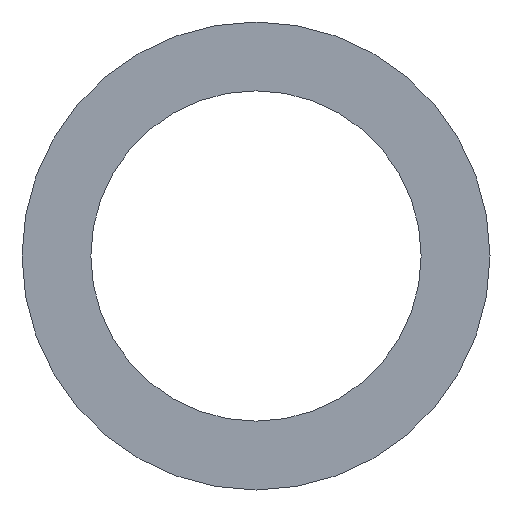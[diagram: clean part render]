
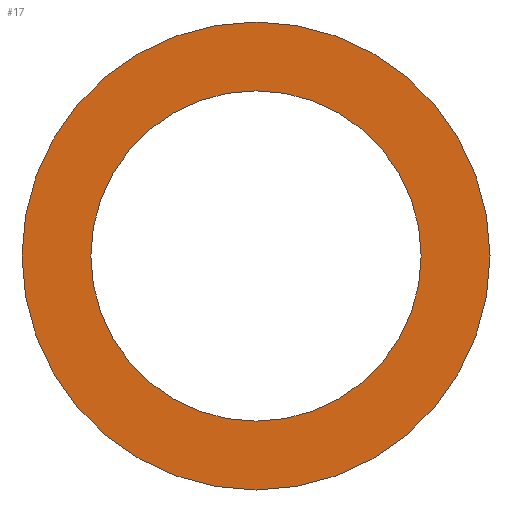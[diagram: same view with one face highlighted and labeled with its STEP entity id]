
A CAD part, left-side view. The second image highlights one B-rep face of the part: STEP entity #17.
In plain terms, the highlighted planar face has unit normal (-1, 0, 0).
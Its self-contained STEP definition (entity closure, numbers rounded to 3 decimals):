
#17 = ADVANCED_FACE('',(#18,#54),#31,.F.);
#18 = FACE_BOUND('',#19,.T.);
#19 = EDGE_LOOP('',(#20));
#20 = ORIENTED_EDGE('',*,*,#21,.T.);
#21 = EDGE_CURVE('',#22,#22,#24,.T.);
#22 = VERTEX_POINT('',#23);
#23 = CARTESIAN_POINT('',(14.8,6.,0.));
#24 = SURFACE_CURVE('',#25,(#30,#42),.PCURVE_S1.);
#25 = CIRCLE('',#26,6.);
#26 = AXIS2_PLACEMENT_3D('',#27,#28,#29);
#27 = CARTESIAN_POINT('',(14.8,0.,0.));
#28 = DIRECTION('',(1.,0.,0.));
#29 = DIRECTION('',(-0.,1.,0.));
#30 = PCURVE('',#31,#36);
#31 = PLANE('',#32);
#32 = AXIS2_PLACEMENT_3D('',#33,#34,#35);
#33 = CARTESIAN_POINT('',(14.8,0.,0.));
#34 = DIRECTION('',(1.,0.,0.));
#35 = DIRECTION('',(-0.,1.,0.));
#36 = DEFINITIONAL_REPRESENTATION('',(#37),#41);
#37 = CIRCLE('',#38,6.);
#38 = AXIS2_PLACEMENT_2D('',#39,#40);
#39 = CARTESIAN_POINT('',(0.,0.));
#40 = DIRECTION('',(1.,-0.));
#41 = ( GEOMETRIC_REPRESENTATION_CONTEXT(2) 
PARAMETRIC_REPRESENTATION_CONTEXT() REPRESENTATION_CONTEXT('2D SPACE',''
  ) );
#42 = PCURVE('',#43,#48);
#43 = CYLINDRICAL_SURFACE('',#44,6.);
#44 = AXIS2_PLACEMENT_3D('',#45,#46,#47);
#45 = CARTESIAN_POINT('',(18.,0.,0.));
#46 = DIRECTION('',(-1.,-0.,-0.));
#47 = DIRECTION('',(0.,1.,0.));
#48 = DEFINITIONAL_REPRESENTATION('',(#49),#53);
#49 = LINE('',#50,#51);
#50 = CARTESIAN_POINT('',(-0.,3.2));
#51 = VECTOR('',#52,1.);
#52 = DIRECTION('',(-1.,0.));
#53 = ( GEOMETRIC_REPRESENTATION_CONTEXT(2) 
PARAMETRIC_REPRESENTATION_CONTEXT() REPRESENTATION_CONTEXT('2D SPACE',''
  ) );
#54 = FACE_BOUND('',#55,.T.);
#55 = EDGE_LOOP('',(#56));
#56 = ORIENTED_EDGE('',*,*,#57,.F.);
#57 = EDGE_CURVE('',#58,#58,#60,.T.);
#58 = VERTEX_POINT('',#59);
#59 = CARTESIAN_POINT('',(14.8,8.5,0.));
#60 = SURFACE_CURVE('',#61,(#66,#73),.PCURVE_S1.);
#61 = CIRCLE('',#62,8.5);
#62 = AXIS2_PLACEMENT_3D('',#63,#64,#65);
#63 = CARTESIAN_POINT('',(14.8,0.,0.));
#64 = DIRECTION('',(1.,0.,0.));
#65 = DIRECTION('',(-0.,1.,0.));
#66 = PCURVE('',#31,#67);
#67 = DEFINITIONAL_REPRESENTATION('',(#68),#72);
#68 = CIRCLE('',#69,8.5);
#69 = AXIS2_PLACEMENT_2D('',#70,#71);
#70 = CARTESIAN_POINT('',(0.,0.));
#71 = DIRECTION('',(1.,-0.));
#72 = ( GEOMETRIC_REPRESENTATION_CONTEXT(2) 
PARAMETRIC_REPRESENTATION_CONTEXT() REPRESENTATION_CONTEXT('2D SPACE',''
  ) );
#73 = PCURVE('',#74,#79);
#74 = CYLINDRICAL_SURFACE('',#75,8.5);
#75 = AXIS2_PLACEMENT_3D('',#76,#77,#78);
#76 = CARTESIAN_POINT('',(14.8,0.,0.));
#77 = DIRECTION('',(1.,0.,0.));
#78 = DIRECTION('',(-0.,1.,0.));
#79 = DEFINITIONAL_REPRESENTATION('',(#80),#84);
#80 = LINE('',#81,#82);
#81 = CARTESIAN_POINT('',(0.,0.));
#82 = VECTOR('',#83,1.);
#83 = DIRECTION('',(1.,0.));
#84 = ( GEOMETRIC_REPRESENTATION_CONTEXT(2) 
PARAMETRIC_REPRESENTATION_CONTEXT() REPRESENTATION_CONTEXT('2D SPACE',''
  ) );
